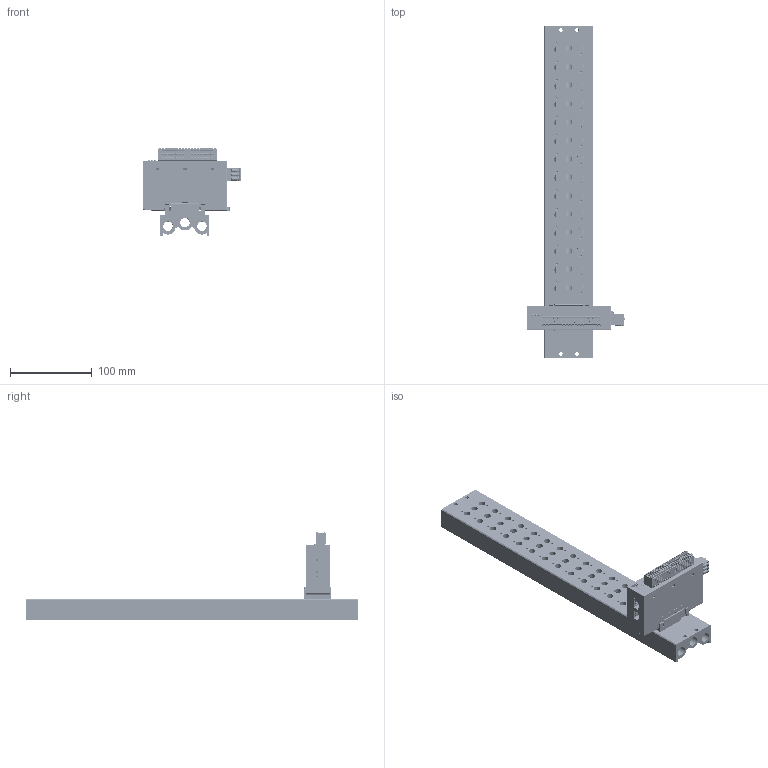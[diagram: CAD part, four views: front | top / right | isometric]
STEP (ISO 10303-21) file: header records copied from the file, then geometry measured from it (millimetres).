
FILE_DESCRIPTION(/* description */ (''),/* implementation_level */ '2;1');
FILE_NAME(/* name */ '',/* time_stamp */ '2025-10-09T16:37:32+08:00',/* author */ (''),/* organization */ (''),/* preprocessor_version */ 'ST-DEVELOPER v14',/* originating_system */ 'SIEMENS PLM Software NX 8.0',/* authorisation */ '');
FILE_SCHEMA (('AP203_CONFIGURATION_CONTROLLED_3D_DESIGN_OF_MECHANICAL_PARTS_AND_ASSEMBLIES_MIM_LF { 1 0 10303 403 2 1 2}'));
Products named in the file (1): DELL3E5857E9ucwk
Bounding box: 119.8 x 406 x 108.48 mm (x, y, z)
Volume: 563902.6 mm3; surface area: 189519.8 mm2
Topology: 2 solids, 228 shells, 9824 faces, 26021 edges, 16937 vertices
Faces by surface type: plane 6420, cylinder 2302, bspline 343, torus 336, cone 242, sphere 95, extrusion 86
Full cylindrical faces by diameter (mm): 0.18 x2, 2.5 x33, 3.05 x40, 3.3 x3, 3.5 x4, 4 x3, 4.5 x4, 6 x4, 8 x42, 11.5 x3, 11.8 x6
Entity records: 322860 total; most frequent: CARTESIAN_POINT 81370, ORIENTED_EDGE 50752, DIRECTION 48336, EDGE_CURVE 25376, VECTOR 18118, LINE 18032, VERTEX_POINT 16765, AXIS2_PLACEMENT_3D 15109
